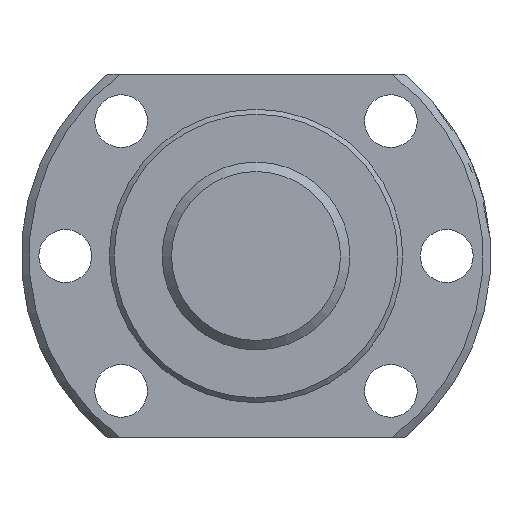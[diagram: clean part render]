
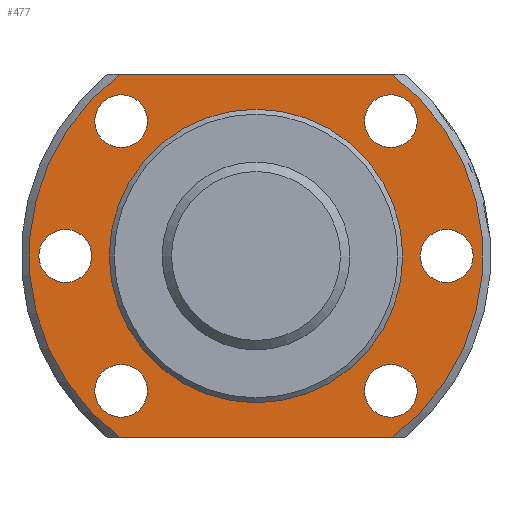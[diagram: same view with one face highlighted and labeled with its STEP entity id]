
A CAD part, left-side view. The second image highlights one B-rep face of the part: STEP entity #477.
In plain terms, the highlighted planar face has unit normal (-1, 0, 0).
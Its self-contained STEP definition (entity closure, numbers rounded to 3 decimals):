
#34=PLANE('',#557);
#61=CIRCLE('',#527,38.667);
#79=CIRCLE('',#556,38.667);
#80=CIRCLE('',#558,25.);
#81=CIRCLE('',#559,4.5);
#82=CIRCLE('',#560,4.5);
#83=CIRCLE('',#561,4.5);
#84=CIRCLE('',#562,4.5);
#85=CIRCLE('',#563,4.5);
#86=CIRCLE('',#564,4.5);
#144=ORIENTED_EDGE('',*,*,#237,.T.);
#145=ORIENTED_EDGE('',*,*,#238,.T.);
#146=ORIENTED_EDGE('',*,*,#239,.F.);
#147=ORIENTED_EDGE('',*,*,#235,.F.);
#148=ORIENTED_EDGE('',*,*,#240,.F.);
#149=ORIENTED_EDGE('',*,*,#208,.F.);
#150=ORIENTED_EDGE('',*,*,#241,.T.);
#151=ORIENTED_EDGE('',*,*,#242,.T.);
#152=ORIENTED_EDGE('',*,*,#243,.T.);
#153=ORIENTED_EDGE('',*,*,#244,.T.);
#154=ORIENTED_EDGE('',*,*,#245,.T.);
#208=EDGE_CURVE('',#259,#260,#61,.T.);
#235=EDGE_CURVE('',#282,#283,#79,.T.);
#237=EDGE_CURVE('',#284,#284,#80,.T.);
#238=EDGE_CURVE('',#285,#285,#81,.F.);
#239=EDGE_CURVE('',#283,#259,#303,.T.);
#240=EDGE_CURVE('',#260,#282,#304,.T.);
#241=EDGE_CURVE('',#286,#286,#82,.T.);
#242=EDGE_CURVE('',#287,#287,#83,.T.);
#243=EDGE_CURVE('',#288,#288,#84,.T.);
#244=EDGE_CURVE('',#289,#289,#85,.T.);
#245=EDGE_CURVE('',#290,#290,#86,.T.);
#259=VERTEX_POINT('',#777);
#260=VERTEX_POINT('',#779);
#282=VERTEX_POINT('',#860);
#283=VERTEX_POINT('',#862);
#284=VERTEX_POINT('',#869);
#285=VERTEX_POINT('',#871);
#286=VERTEX_POINT('',#875);
#287=VERTEX_POINT('',#877);
#288=VERTEX_POINT('',#879);
#289=VERTEX_POINT('',#881);
#290=VERTEX_POINT('',#883);
#303=LINE('',#872,#311);
#304=LINE('',#873,#312);
#311=VECTOR('',#676,1000.);
#312=VECTOR('',#677,1000.);
#343=EDGE_LOOP('',(#144));
#344=EDGE_LOOP('',(#145));
#345=EDGE_LOOP('',(#146,#147,#148,#149));
#346=EDGE_LOOP('',(#150));
#347=EDGE_LOOP('',(#151));
#348=EDGE_LOOP('',(#152));
#349=EDGE_LOOP('',(#153));
#350=EDGE_LOOP('',(#154));
#411=FACE_BOUND('',#343,.T.);
#412=FACE_BOUND('',#344,.T.);
#413=FACE_BOUND('',#345,.T.);
#414=FACE_BOUND('',#346,.T.);
#415=FACE_BOUND('',#347,.T.);
#416=FACE_BOUND('',#348,.T.);
#417=FACE_BOUND('',#349,.T.);
#418=FACE_BOUND('',#350,.T.);
#477=ADVANCED_FACE('',(#411,#412,#413,#414,#415,#416,#417,#418),#34,.T.);
#527=AXIS2_PLACEMENT_3D('',#778,#606,#607);
#556=AXIS2_PLACEMENT_3D('',#861,#668,#669);
#557=AXIS2_PLACEMENT_3D('',#867,#670,#671);
#558=AXIS2_PLACEMENT_3D('',#868,#672,#673);
#559=AXIS2_PLACEMENT_3D('',#870,#674,#675);
#560=AXIS2_PLACEMENT_3D('',#874,#678,#679);
#561=AXIS2_PLACEMENT_3D('',#876,#680,#681);
#562=AXIS2_PLACEMENT_3D('',#878,#682,#683);
#563=AXIS2_PLACEMENT_3D('',#880,#684,#685);
#564=AXIS2_PLACEMENT_3D('',#882,#686,#687);
#606=DIRECTION('',(1.,0.,0.));
#607=DIRECTION('',(0.,0.,-1.));
#668=DIRECTION('',(1.,0.,0.));
#669=DIRECTION('',(0.,0.,-1.));
#670=DIRECTION('',(-1.,0.,0.));
#671=DIRECTION('',(0.,0.,1.));
#672=DIRECTION('',(1.,0.,0.));
#673=DIRECTION('',(0.,0.,-1.));
#674=DIRECTION('',(-1.,0.,0.));
#675=DIRECTION('',(0.,0.,1.));
#676=DIRECTION('',(0.,-1.,0.));
#677=DIRECTION('',(0.,1.,0.));
#678=DIRECTION('',(1.,0.,0.));
#679=DIRECTION('',(0.,0.,-1.));
#680=DIRECTION('',(1.,0.,0.));
#681=DIRECTION('',(0.,0.,-1.));
#682=DIRECTION('',(1.,0.,0.));
#683=DIRECTION('',(0.,0.,-1.));
#684=DIRECTION('',(1.,0.,0.));
#685=DIRECTION('',(0.,0.,-1.));
#686=DIRECTION('',(1.,0.,0.));
#687=DIRECTION('',(0.,0.,-1.));
#777=CARTESIAN_POINT('',(5.,-23.111,31.));
#778=CARTESIAN_POINT('',(5.,0.,0.));
#779=CARTESIAN_POINT('',(5.,-23.111,-31.));
#860=CARTESIAN_POINT('',(5.,23.111,-31.));
#861=CARTESIAN_POINT('',(5.,0.,0.));
#862=CARTESIAN_POINT('',(5.,23.111,31.));
#867=CARTESIAN_POINT('',(5.,38.667,0.));
#868=CARTESIAN_POINT('',(5.,0.,0.));
#869=CARTESIAN_POINT('',(5.,0.,-25.));
#870=CARTESIAN_POINT('',(5.,32.5,0.));
#871=CARTESIAN_POINT('',(5.,32.5,4.5));
#872=CARTESIAN_POINT('',(5.,38.667,31.));
#873=CARTESIAN_POINT('',(5.,38.667,-31.));
#874=CARTESIAN_POINT('',(5.,-22.981,-22.981));
#875=CARTESIAN_POINT('',(5.,-22.981,-27.481));
#876=CARTESIAN_POINT('',(5.,22.981,22.981));
#877=CARTESIAN_POINT('',(5.,22.981,18.481));
#878=CARTESIAN_POINT('',(5.,-22.981,22.981));
#879=CARTESIAN_POINT('',(5.,-22.981,18.481));
#880=CARTESIAN_POINT('',(5.,22.981,-22.981));
#881=CARTESIAN_POINT('',(5.,22.981,-27.481));
#882=CARTESIAN_POINT('',(5.,-32.5,0.));
#883=CARTESIAN_POINT('',(5.,-32.5,-4.5));
